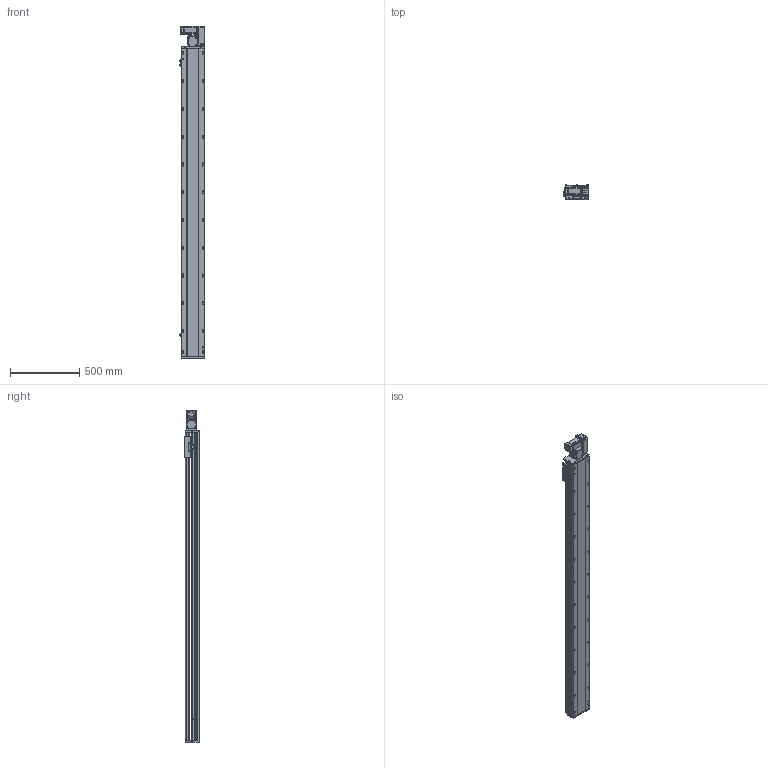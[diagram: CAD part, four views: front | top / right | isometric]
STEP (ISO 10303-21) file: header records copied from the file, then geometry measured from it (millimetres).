
FILE_DESCRIPTION (( 'STEP AP214' ), '1' );
FILE_NAME ('RTB17S-XX-1950-R-M40-C4.STEP', '2025-12-11T07:43:35', ( '' ), ( '' ), 'SwSTEP 2.0', 'SolidWorks 2018', '' );
FILE_SCHEMA (( 'AUTOMOTIVE_DESIGN' ));
Length unit declared in the file: millimetre
Products named in the file (14): RTB17S-L-007奻裔^RTB17S-XX-XX-R-M40-C4; RTB14-L-005P--轴承塑胶压盖^RTB17S-R-皮带座装配-400W_RTB17S-XX-XX-R-M40-C4; RTB14-L-017P^RTB17S-R-々湍釱蚾饜-400W_RTB17S-XX-XX-R-M40-C4; 400W侜督萇儂^RTB17S-XX-XX-R-M40-C4; RTB17-R-011菁釱^RTB17S-XX-XX-R-M40-C4; RTB17S-L-001耜醱啣^RTB17S-XX-XX-R-M40-C4; RTB17S-R-々湍釱蚾饜-400W^RTB17S-XX-XX-R-M40-C4; RTB17S-L-004佪裝蹟譫蟀諉釱^RTB17S-XX-XX-R-M40-C4; RTB17S-XX-1950-R-M40-C4; OMRON EE-SX672 传感器^RTB17S-XX-XX-R-M40-C4; RTB14-L-008-M20--萇儂啣^RTB17S-R-々湍釱蚾饜-400W_RTB17S-XX-XX-R-M40-C4; RTB17S-L-014-T20--々湍釱^RTB17S-R-々湍釱蚾饜-400W_RTB17S-XX-XX-R-M40-C4; RTB14-L-018P^RTB17S-R-々湍釱蚾饜-400W_RTB17S-XX-XX-R-M40-C4; RTH13-BL-012覜茼え俋离^RTB17S-XX-XX-R-M40-C4
Assembly tree (16 placements, depth 3):
  RTB17S-XX-1950-R-M40-C4
    RTB17-R-011菁釱^RTB17S-XX-XX-R-M40-C4
    RTB17S-L-007奻裔^RTB17S-XX-XX-R-M40-C4
    OMRON EE-SX672 传感器^RTB17S-XX-XX-R-M40-C4  x3
    RTB17S-L-001耜醱啣^RTB17S-XX-XX-R-M40-C4
    400W侜督萇儂^RTB17S-XX-XX-R-M40-C4
    RTB17S-L-004佪裝蹟譫蟀諉釱^RTB17S-XX-XX-R-M40-C4
    RTH13-BL-012覜茼え俋离^RTB17S-XX-XX-R-M40-C4
    RTB17S-R-々湍釱蚾饜-400W^RTB17S-XX-XX-R-M40-C4
      RTB17S-L-014-T20--々湍釱^RTB17S-R-々湍釱蚾饜-400W_RTB17S-XX-XX-R-M40-C4
      RTB14-L-005P--轴承塑胶压盖^RTB17S-R-皮带座装配-400W_RTB17S-XX-XX-R-M40-C4
      RTB14-L-008-M20--萇儂啣^RTB17S-R-々湍釱蚾饜-400W_RTB17S-XX-XX-R-M40-C4
      RTB14-L-017P^RTB17S-R-々湍釱蚾饜-400W_RTB17S-XX-XX-R-M40-C4  x2
      RTB14-L-018P^RTB17S-R-々湍釱蚾饜-400W_RTB17S-XX-XX-R-M40-C4
Bounding box: 183.5 x 108 x 2391 mm (x, y, z)
Volume: 20121525.5 mm3; surface area: 2342891.7 mm2
Topology: 15 solids, 15 shells, 2285 faces, 6357 edges, 4149 vertices
Faces by surface type: plane 1078, cylinder 759, bspline 301, cone 139, torus 8
Entity records: 66473 total; most frequent: CARTESIAN_POINT 18762, ORIENTED_EDGE 9558, DIRECTION 8846, EDGE_CURVE 4779, VERTEX_POINT 3137, AXIS2_PLACEMENT_3D 3067, LINE 2712, VECTOR 2712
